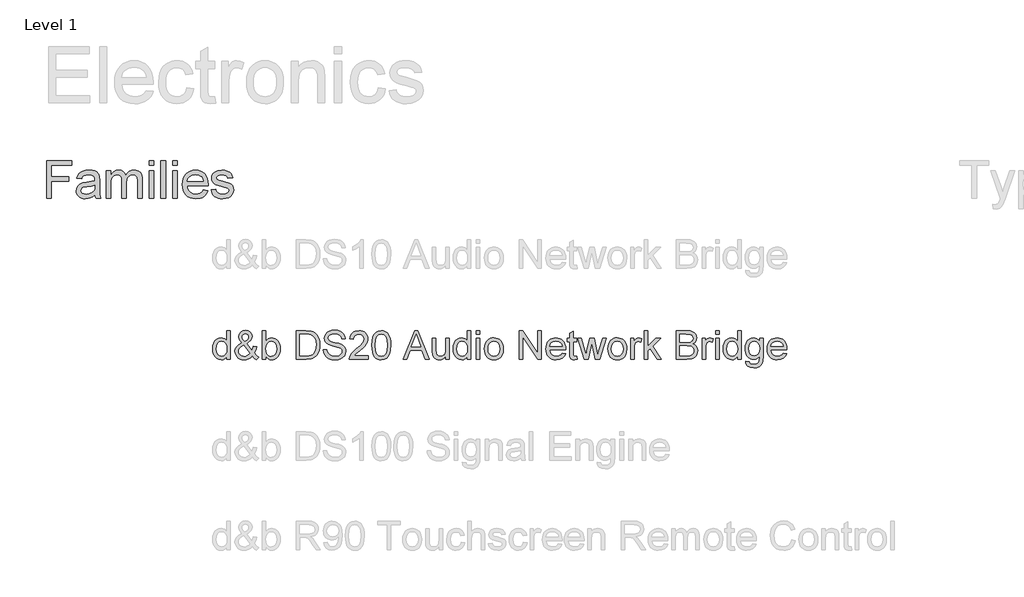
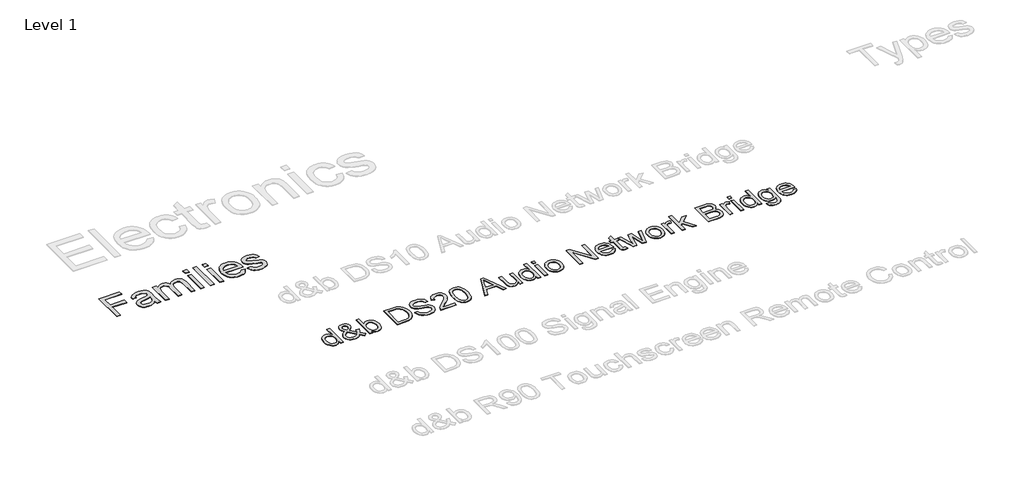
# One storey, part 3 of 14: 2 proxies.
"""IFC4 building model written with IfcOpenShell, lengths in millimetres."""

from ifc_helpers import new_model, si_unit, origin, origin_with_axes, place, context, project, spatial, polyline, outline, extrude, element, save

model = new_model("IFC4")

# Units and contexts
model_context = context("Model", 3, world=origin())
ifc_project = project(units=[si_unit("LENGTHUNIT", "METRE", prefix="MILLI")], contexts=[model_context])

# Site, building, storey
site = spatial("IfcSite", under=ifc_project)
building = spatial("IfcBuilding", under=site)
storey = spatial("IfcBuildingStorey", under=building, Name="Level 1", Elevation=0.0)

# Proxies
placement = place(None, origin())
element("IfcBuildingElementProxy", 1, Name="300mm Arial", ObjectType="300mm Arial", at=placement, inside=storey, context=model_context, shape_type="SweptSolid", body=[
    extrude(outline(polyline([(-19163.9314906, 507.7090418), (-19163.9314906, 543.2464425), (-19175.2024752, 525.6386905), (-19188.8554958, 513.0617248), (-19204.8905522, 505.5155454), (-19223.3076446, 503.0001523), (-19247.6614327, 506.642184), (-19269.9550816, 517.5682793), (-19288.827428, 535.0150829), (-19302.9173084, 558.2192397), (-19311.691294, 586.2426507), (-19314.6159558, 618.1472168), (-19311.9212202, 649.6563096), (-19303.8370134, 678.111982), (-19290.3725323, 701.895553), (-19271.5369742, 719.3883418), (-19248.7558816, 730.1488902), (-19223.4547974, 733.7357396), (-19205.0239095, 731.1697627), (-19188.7267371, 723.471832), (-19174.9127682, 711.672017), (-19163.9314906, 696.8003873), (-19163.9314906, 809.0779723), (-19126.2603743, 809.0779723), (-19126.2603743, 507.7090418), (-19163.9314906, 507.7090418)]), holes=[polyline([(-19276.9448395, 618.2943696), (-19272.6958025, 584.2192998), (-19259.9486913, 559.9850733), (-19241.4258329, 545.4997198), (-19219.8495539, 540.6712686), (-19198.2824719, 545.2789906), (-19180.228663, 559.1021565), (-19168.0057837, 582.3982839), (-19163.9314906, 615.42489), (-19168.0793601, 651.5325078), (-19180.5229686, 676.5668776), (-19199.03663, 691.1901869), (-19221.3946582, 696.0646233), (-19243.1916665, 691.383325), (-19261.0523373, 677.3394298), (-19272.971714, 653.215568), (-19276.9448395, 618.2943696)])]), origin_with_axes(), (0.0, 0.0, 1.0), 5.0),
    extrude(outline(polyline([(-18896.9227385, 544.9386997), (-18916.0709963, 526.5905852), (-18936.8747232, 513.4847891), (-18959.3707072, 505.6213115), (-18983.5957366, 503.0001523), (-19005.5766858, 504.9407298), (-19025.166402, 510.7624624), (-19042.3648853, 520.46535), (-19057.1721356, 534.0493927), (-19073.6716431, 560.849596), (-19079.1714789, 590.6296435), (-19074.7476979, 617.0251767), (-19061.4763549, 640.7351713), (-19039.4126323, 661.7412332), (-19008.6117122, 680.0249683), (-19034.9152749, 718.137543), (-19041.5003626, 746.3908803), (-19036.3132265, 771.8299202), (-19020.7518181, 793.7005049), (-18997.3361291, 808.7652726), (-18968.5861512, 813.7868618), (-18941.2341248, 808.9860018), (-18919.3635402, 794.5834216), (-18905.0161424, 773.448601), (-18900.2336765, 748.4510195), (-18903.7745407, 727.4633516), (-18914.3971333, 708.0575764), (-18932.1014543, 690.2336937), (-18956.8875037, 673.9917036), (-18902.367392, 606.0806873), (-18893.0783716, 625.4864626), (-18886.1070078, 647.7985056), (-18848.4358915, 639.6315253), (-18860.0241744, 604.737918), (-18875.070548, 577.6066209), (-18853.6598159, 552.6274334), (-18829.6003334, 531.9892535), (-18857.8536706, 503.0001523), (-18877.0755049, 520.5849116), (-18896.9227385, 544.9386997)]), holes=[polyline([(-18922.1594434, 572.088391), (-18989.4082721, 656.0390623), (-19015.0956324, 639.6499194), (-19030.7949965, 624.4747871), (-19038.8240211, 609.9802365), (-19041.5003626, 595.6328387), (-19037.8399368, 577.8641383), (-19026.8586592, 559.4332503), (-19009.1635352, 545.361764), (-18985.3615701, 540.6712686), (-18968.3194367, 542.8601664), (-18950.7438744, 549.4268601), (-18934.6766283, 559.4700385), (-18922.1594434, 572.088391)]), polyline([(-18975.9437911, 697.7568805), (-18956.2437102, 710.2556713), (-18944.9681271, 721.1173872), (-18939.6706263, 731.6847975), (-18937.9047928, 743.3006715), (-18940.2316464, 756.4616499), (-18947.2122072, 766.9554838), (-18957.6876471, 773.8256801), (-18970.4991375, 776.1157455), (-18983.5865395, 773.8440742), (-18994.3011026, 767.0290602), (-19001.4472104, 756.9398965), (-19003.8292463, 744.8457759), (-19000.5918847, 731.0502011), (-18990.8062237, 715.7095219), (-18975.9437911, 697.7568805)])]), origin_with_axes(), (0.0, 0.0, 1.0), 5.0),
    extrude(outline(polyline([(-18754.2581008, 507.7090418), (-18791.9292171, 507.7090418), (-18791.9292171, 809.0779723), (-18754.2581008, 809.0779723), (-18754.2581008, 697.3154221), (-18741.8696746, 713.249311), (-18727.8809617, 724.6306603), (-18712.2919622, 731.4594698), (-18695.1026759, 733.7357396), (-18675.6969007, 731.6847975), (-18657.3579832, 725.5319712), (-18641.1343873, 715.6635366), (-18628.0745764, 702.4657701), (-18617.8382599, 686.0674301), (-18610.0851469, 666.5972755), (-18605.2015134, 644.8646467), (-18603.5736355, 621.6788839), (-18605.2589949, 594.9246658), (-18610.3150731, 571.3894152), (-18618.7418701, 551.073132), (-18630.5393858, 533.9758163), (-18644.7005433, 520.4239633), (-18660.2182658, 510.7440683), (-18677.092553, 504.9361313), (-18695.3234051, 503.0001523), (-18713.0783099, 505.4971513), (-18728.8190608, 512.9881484), (-18742.5456577, 525.4731437), (-18754.2581008, 542.9521369), (-18754.2581008, 507.7090418)]), holes=[polyline([(-18754.2581008, 619.9130503), (-18751.6829268, 588.4959279), (-18743.9574049, 567.2323486), (-18734.8293329, 555.6118761), (-18724.2205359, 547.3115386), (-18712.1310138, 542.3313361), (-18698.5607667, 540.6712686), (-18676.8189408, 545.5640991), (-18658.2409, 560.2425907), (-18645.4937889, 584.6147729), (-18641.2447519, 618.5886752), (-18645.3190449, 653.0592181), (-18657.5419242, 677.1554888), (-18675.5405509, 691.3373397), (-18696.9420859, 696.0646233), (-18718.6839118, 691.1717928), (-18737.2619526, 676.4933012), (-18750.0090637, 652.5625774), (-18754.2581008, 619.9130503)])]), origin_with_axes(), (0.0, 0.0, 1.0), 5.0),
    extrude(outline(polyline([(-18438.7625017, 507.7090418), (-18438.7625017, 809.0779723), (-18334.7990499, 809.0779723), (-18281.0147022, 804.7369647), (-18256.9920079, 796.3676493), (-18236.72171, 783.1790798), (-18215.8811949, 760.2232433), (-18201.0371564, 731.6756005), (-18192.1528062, 698.0879743), (-18189.1913562, 660.0121878), (-18191.1963131, 627.6661634), (-18197.2111837, 599.201294), (-18206.3714454, 574.9670676), (-18217.8125754, 555.312972), (-18230.9827508, 539.7975488), (-18245.3301486, 527.9793397), (-18261.802065, 519.2145512), (-18281.345796, 512.8593897), (-18329.7958547, 507.7090418), (-18438.7625017, 507.7090418)]), holes=[polyline([(-18401.0913854, 545.3801581), (-18334.4311679, 545.3801581), (-18306.8584123, 546.7413215), (-18285.9443209, 550.8248116), (-18270.1621833, 557.3915053), (-18257.9852893, 566.202279), (-18244.8978873, 582.5086485), (-18235.066241, 603.615878), (-18228.9134146, 629.615938), (-18226.8624725, 660.600799), (-18230.8815833, 701.6564297), (-18242.9389157, 731.9699061), (-18260.7536013, 752.792027), (-18282.0447718, 765.3735912), (-18303.7130213, 769.8985398), (-18335.4612375, 771.406856), (-18401.0913854, 771.406856), (-18401.0913854, 545.3801581)])]), origin_with_axes(), (0.0, 0.0, 1.0), 5.0),
    extrude(outline(polyline([(-18151.5202399, 611.3046117), (-18113.8491236, 611.3046117), (-18109.5265101, 590.3997173), (-18101.7090177, 573.5967071), (-18089.5137296, 560.2609848), (-18072.0577289, 549.7579539), (-18050.7205732, 542.9429399), (-18026.8818199, 540.6712686), (-18005.8941521, 542.3911169), (-17987.5184464, 547.5506619), (-17972.6284227, 555.7176422), (-17962.0978006, 566.4597964), (-17955.8346096, 578.7930403), (-17953.7468793, 591.7332895), (-17955.3103777, 604.3424449), (-17960.0008732, 615.240949), (-17969.5290169, 624.5391664), (-17985.60546, 632.3474618), (-18040.4566655, 646.7316478), (-18076.4631158, 656.2505944), (-18099.5017258, 665.3096885), (-18118.2545105, 677.9832233), (-18131.5442475, 693.3422966), (-18139.4629075, 711.0558146), (-18142.1024608, 730.7926837), (-18138.8375081, 752.8564063), (-18129.04265, 773.4302069), (-18112.9754038, 790.8678135), (-18090.8932871, 803.5229541), (-18064.3873893, 811.2208849), (-18035.0488002, 813.7868618), (-18003.2637958, 811.1013232), (-17975.451917, 803.0447075), (-17952.6064451, 789.7825616), (-17935.7206615, 771.4804324), (-17925.0336895, 749.2787539), (-17920.7846525, 724.3179606), (-17958.4557688, 724.3179606), (-17965.3719503, 746.7955505), (-17979.7929245, 763.0191465), (-18002.3256967, 772.8415957), (-18033.5772722, 776.1157455), (-18065.5646117, 772.8783839), (-18087.5087727, 763.1662993), (-18100.2007015, 748.8740837), (-18104.4313445, 731.8963297), (-18101.4331062, 717.4201732), (-18092.4383914, 705.776708), (-18071.1748121, 695.3656475), (-18030.9285219, 684.7338579), (-17989.3946446, 674.6354971), (-17964.2683043, 665.8247233), (-17942.7931929, 652.1579072), (-17927.8111986, 635.2905177), (-17919.0096219, 615.4064959), (-17916.075763, 592.6897827), (-17919.4510803, 569.4672317), (-17929.5770322, 547.6242383), (-17946.0397515, 528.8254683), (-17968.4253709, 514.7355879), (-17995.3451359, 505.9340112), (-18025.4102919, 503.0001523), (-18062.3180531, 506.1639374), (-18092.6959088, 515.6552929), (-18116.8933471, 531.5110069), (-18135.2598557, 553.7678676), (-18147.0504736, 580.8807706), (-18151.5202399, 611.3046117)])), origin_with_axes(), (0.0, 0.0, 1.0), 5.0),
    extrude(outline(polyline([(-17680.631286, 545.3801581), (-17680.631286, 507.7090418), (-17878.4046467, 507.7090418), (-17874.3579447, 533.6815107), (-17865.0597273, 553.9793998), (-17851.4388964, 573.6702835), (-17831.7480126, 594.2808723), (-17804.2396364, 617.3378764), (-17763.597873, 653.4454942), (-17739.2348879, 680.0985447), (-17727.0671909, 701.7300061), (-17723.0112919, 722.7728562), (-17726.8464617, 741.6360055), (-17738.3519711, 757.3169755), (-17756.037898, 767.8843858), (-17778.4143204, 771.406856), (-17801.9127828, 767.9671593), (-17820.1689268, 757.6480693), (-17831.9503477, 741.2589264), (-17836.0246408, 719.609071), (-17873.6957571, 724.3179606), (-17864.5630866, 760.7566722), (-17856.016728, 775.2926095), (-17844.8170205, 787.3729345), (-17831.2214815, 796.8688885), (-17815.4876284, 803.6517128), (-17777.60498, 809.0779723), (-17757.4151562, 807.5696561), (-17739.44642, 803.0447075), (-17723.6987714, 795.5031266), (-17710.1722103, 784.9449134), (-17699.3081951, 772.151817), (-17691.5481843, 757.9055867), (-17686.8921778, 742.2062226), (-17685.3401756, 725.0537246), (-17687.0140387, 707.0367038), (-17692.0356279, 689.3323828), (-17700.9475692, 671.3245592), (-17714.2924886, 652.3970305), (-17735.565265, 629.799879), (-17768.2607773, 600.7831866), (-17811.5972763, 564.5468101), (-17828.5934245, 545.3801581), (-17680.631286, 545.3801581)])), origin_with_axes(), (0.0, 0.0, 1.0), 5.0),
    extrude(outline(polyline([(-17642.9601697, 655.9654859), (-17640.1918577, 704.2040125), (-17631.8869217, 742.6752721), (-17618.1281351, 771.967876), (-17598.9982713, 792.6704353), (-17574.3593747, 804.976088), (-17544.0734894, 809.0779723), (-17520.8601355, 806.6499511), (-17500.0748028, 799.3658876), (-17482.6923785, 787.5108903), (-17469.68775, 771.3700678), (-17459.8653007, 751.0813757), (-17452.0294142, 726.7827699), (-17446.8974604, 695.9266676), (-17445.1868091, 655.9654859), (-17447.92753, 608.0028707), (-17456.1496926, 569.6235816), (-17469.8257058, 540.3033866), (-17488.9279784, 519.5180539), (-17513.6220573, 507.1296277), (-17544.0734894, 503.0001523), (-17564.822034, 504.793577), (-17583.2161337, 510.1738512), (-17599.2557887, 519.1409748), (-17612.9409989, 531.6949479), (-17626.0743862, 554.3886685), (-17635.455377, 582.6649983), (-17641.0839716, 616.5239375), (-17642.9601697, 655.9654859)]), holes=[polyline([(-17605.2890534, 656.0390623), (-17600.8744695, 596.7824699), (-17595.3562396, 576.5144712), (-17587.6307177, 562.4866709), (-17567.9122427, 546.1251192), (-17544.0734894, 540.6712686), (-17520.2347361, 546.1435133), (-17500.5162612, 562.5602473), (-17492.7907393, 576.6110402), (-17487.2725094, 596.8744404), (-17482.8579254, 656.0390623), (-17487.1253566, 713.9620824), (-17492.4596455, 734.1634025), (-17499.92765, 748.5245959), (-17519.6093368, 765.6862909), (-17544.5149478, 771.406856), (-17568.0961837, 766.3668726), (-17587.0421065, 751.2469226), (-17595.0251458, 735.6119378), (-17600.7273167, 714.5322995), (-17605.2890534, 656.0390623)])]), origin_with_axes(), (0.0, 0.0, 1.0), 5.0),
    extrude(outline(polyline([(-17315.3980412, 507.7090418), (-17195.1006288, 809.0779723), (-17163.0213188, 809.0779723), (-17042.7974828, 507.7090418), (-17082.6023147, 507.7090418), (-17117.0360694, 601.8868326), (-17241.233031, 601.8868326), (-17275.6667858, 507.7090418), (-17315.3980412, 507.7090418)]), holes=[polyline([(-17227.400668, 639.5579489), (-17130.7948561, 639.5579489), (-17158.0181237, 713.6493827), (-17179.1345502, 771.406856), (-17197.896532, 720.1241058), (-17227.400668, 639.5579489)])]), origin_with_axes(), (0.0, 0.0, 1.0), 5.0),
    extrude(outline(polyline([(-16865.9933959, 507.7090418), (-16865.9933959, 545.7480401), (-16879.6234238, 527.0458392), (-16895.4975319, 513.6871242), (-16913.6157202, 505.6718953), (-16933.9779886, 503.0001523), (-16952.3261031, 504.8763504), (-16969.4050248, 510.504945), (-16983.7340285, 518.9662309), (-16993.8323892, 529.3405031), (-17005.0527901, 557.0788056), (-17007.2600821, 592.1011715), (-17007.2600821, 729.0268501), (-16969.5889658, 729.0268501), (-16969.5889658, 609.8330837), (-16967.3080974, 571.4262034), (-16961.8174586, 558.6147129), (-16952.4088766, 548.8750371), (-16939.7077507, 542.7222107), (-16924.3394804, 540.6712686), (-16908.0882932, 542.7681959), (-16892.8855698, 549.0589781), (-16880.3499908, 558.9642008), (-16872.100237, 571.90445), (-16867.5201062, 589.6271651), (-16865.9933959, 613.8797856), (-16865.9933959, 729.0268501), (-16828.3222796, 729.0268501), (-16828.3222796, 507.7090418), (-16865.9933959, 507.7090418)])), origin_with_axes(), (0.0, 0.0, 1.0), 5.0),
    extrude(outline(polyline([(-16639.9666981, 507.7090418), (-16639.9666981, 543.2464425), (-16651.2376827, 525.6386905), (-16664.8907033, 513.0617248), (-16680.9257597, 505.5155454), (-16699.3428521, 503.0001523), (-16723.6966402, 506.642184), (-16745.9902891, 517.5682793), (-16764.8626355, 535.0150829), (-16778.9525159, 558.2192397), (-16787.7265015, 586.2426507), (-16790.6511633, 618.1472168), (-16787.9564277, 649.6563096), (-16779.8722209, 678.111982), (-16766.4077398, 701.895553), (-16747.5721817, 719.3883418), (-16724.7910891, 730.1488902), (-16699.4900049, 733.7357396), (-16681.059117, 731.1697627), (-16664.7619446, 723.471832), (-16650.9479756, 711.672017), (-16639.9666981, 696.8003873), (-16639.9666981, 809.0779723), (-16602.2955818, 809.0779723), (-16602.2955818, 507.7090418), (-16639.9666981, 507.7090418)]), holes=[polyline([(-16752.980047, 618.2943696), (-16748.73101, 584.2192998), (-16735.9838988, 559.9850733), (-16717.4610404, 545.4997198), (-16695.8847614, 540.6712686), (-16674.3176794, 545.2789906), (-16656.2638705, 559.1021565), (-16644.0409912, 582.3982839), (-16639.9666981, 615.42489), (-16644.1145676, 651.5325078), (-16656.5581761, 676.5668776), (-16675.0718375, 691.1901869), (-16697.4298657, 696.0646233), (-16719.2268739, 691.383325), (-16737.0875448, 677.3394298), (-16749.0069215, 653.215568), (-16752.980047, 618.2943696)])]), origin_with_axes(), (0.0, 0.0, 1.0), 5.0),
    extrude(outline(polyline([(-16545.7889073, 771.406856), (-16545.7889073, 809.0779723), (-16508.117791, 809.0779723), (-16508.117791, 771.406856), (-16545.7889073, 771.406856)])), origin_with_axes(), (0.0, 0.0, 1.0), 5.0),
    extrude(outline(polyline([(-16545.7889073, 507.7090418), (-16545.7889073, 729.0268501), (-16508.117791, 729.0268501), (-16508.117791, 507.7090418), (-16545.7889073, 507.7090418)])), origin_with_axes(), (0.0, 0.0, 1.0), 5.0),
    extrude(outline(polyline([(-16461.0288956, 618.367946), (-16458.9917491, 647.0305519), (-16452.8803094, 671.7292294), (-16442.6945767, 692.4639783), (-16428.4345509, 709.2347988), (-16414.077956, 719.9539604), (-16398.2314391, 727.6105044), (-16380.895, 732.2044308), (-16362.0686389, 733.7357396), (-16341.2856055, 731.8710378), (-16322.4937333, 726.2769322), (-16305.6930224, 716.9534229), (-16290.8834729, 703.9005098), (-16278.7962501, 687.5596515), (-16270.1625195, 668.3723062), (-16264.9822811, 646.3384739), (-16263.255535, 621.4581547), (-16266.3089556, 583.4007623), (-16275.4692173, 554.4300552), (-16290.4696056, 532.7342145), (-16311.0434062, 516.5014215), (-16335.4799677, 506.3754696), (-16362.0686389, 503.0001523), (-16383.155175, 504.8579563), (-16402.1217912, 510.4313686), (-16418.9684873, 519.720389), (-16433.6952634, 532.7250175), (-16445.6537275, 549.224525), (-16454.1954876, 568.9981822), (-16459.3205436, 592.0459892), (-16461.0288956, 618.367946)]), holes=[polyline([(-16423.3577793, 618.4415224), (-16418.9983777, 584.3480585), (-16405.9201728, 560.0586497), (-16386.238486, 545.5181139), (-16362.0686389, 540.6712686), (-16338.0091564, 545.545705), (-16318.3642579, 560.1690143), (-16305.286053, 584.7803198), (-16300.9266513, 619.6187447), (-16305.3136441, 652.7189273), (-16318.4746225, 676.6772422), (-16338.1471122, 691.2177781), (-16362.0686389, 696.0646233), (-16386.238486, 691.2361722), (-16405.9201728, 676.7508186), (-16418.9983777, 652.5165922), (-16423.3577793, 618.4415224)])]), origin_with_axes(), (0.0, 0.0, 1.0), 5.0),
    extrude(outline(polyline([(-16098.4444012, 507.7090418), (-16098.4444012, 809.0779723), (-16058.1245345, 809.0779723), (-15900.6710406, 570.3225574), (-15900.6710406, 809.0779723), (-15862.9999243, 809.0779723), (-15862.9999243, 507.7090418), (-15903.3197909, 507.7090418), (-16060.7732849, 746.5380331), (-16060.7732849, 507.7090418), (-16098.4444012, 507.7090418)])), origin_with_axes(), (0.0, 0.0, 1.0), 5.0),
    extrude(outline(polyline([(-15646.8324639, 573.6334953), (-15609.8971116, 568.9246058), (-15623.2052428, 541.0943329), (-15644.4412309, 520.290606), (-15673.1268295, 507.3227657), (-15708.7837919, 503.0001523), (-15732.1580942, 504.8648541), (-15752.9848136, 510.4589597), (-15771.2639503, 519.782469), (-15786.9955041, 532.8353821), (-15799.6460462, 549.2544154), (-15808.6821477, 568.6762855), (-15814.1038086, 591.1009923), (-15815.9110289, 616.528536), (-15814.0854145, 642.8183031), (-15808.6085713, 665.9902702), (-15799.4804993, 686.0444375), (-15786.7011985, 702.9808048), (-15771.0110314, 716.4360888), (-15753.1503605, 726.0470059), (-15733.1191859, 731.8135562), (-15710.9175075, 733.7357396), (-15689.4308997, 731.8181547), (-15669.9998326, 726.0654), (-15652.6243061, 716.4774755), (-15637.3043202, 703.0543812), (-15624.7986317, 686.1548021), (-15615.865997, 666.137423), (-15610.5064161, 643.0022441), (-15608.7198892, 616.7492652), (-15608.9406184, 606.5957221), (-15778.2399126, 606.5957221), (-15771.7192042, 578.3975672), (-15756.5716631, 557.6674168), (-15734.7102755, 544.9203056), (-15708.0480279, 540.6712686), (-15687.9984592, 542.6394373), (-15671.1126756, 548.5439433), (-15657.3906772, 558.7526686), (-15646.8324639, 573.6334953)]), holes=[polyline([(-15778.2399126, 644.2668384), (-15646.3910055, 644.2668384), (-15651.4861711, 664.1692544), (-15661.4741673, 678.4062876), (-15683.4367224, 691.6500394), (-15711.0646603, 696.0646233), (-15736.457715, 692.5421532), (-15757.4545799, 681.9747429), (-15772.050298, 665.5028266), (-15778.2399126, 644.2668384)])]), origin_with_axes(), (0.0, 0.0, 1.0), 5.0),
    extrude(outline(polyline([(-15490.9976508, 539.1261642), (-15486.2887612, 506.6053958), (-15514.468522, 503.0001523), (-15532.5499221, 504.5636507), (-15546.0327972, 509.2541462), (-15555.5609409, 516.4830274), (-15561.7781466, 525.6616832), (-15565.1994492, 541.4254267), (-15566.3398834, 568.409571), (-15566.3398834, 691.3557338), (-15594.5932206, 691.3557338), (-15594.5932206, 729.0268501), (-15566.3398834, 729.0268501), (-15566.3398834, 782.8111978), (-15528.6687671, 804.9576939), (-15528.6687671, 729.0268501), (-15490.9976508, 729.0268501), (-15490.9976508, 691.3557338), (-15528.6687671, 691.3557338), (-15528.6687671, 569.513217), (-15526.6822043, 550.0890477), (-15520.2442694, 543.2096543), (-15507.4051877, 540.6712686), (-15490.9976508, 539.1261642)])), origin_with_axes(), (0.0, 0.0, 1.0), 5.0),
    extrude(outline(polyline([(-15416.3176057, 507.7090418), (-15483.9343164, 729.0268501), (-15444.8652486, 729.0268501), (-15406.6055211, 599.9002698), (-15395.2011792, 553.7678676), (-15385.8569765, 598.2080126), (-15355.4699237, 729.0268501), (-15310.7354731, 729.0268501), (-15280.3484203, 598.5758946), (-15272.0342872, 558.3296043), (-15260.1149106, 600.7831866), (-15221.8551831, 729.0268501), (-15182.565386, 729.0268501), (-15250.4028259, 507.7090418), (-15295.8730405, 507.7090418), (-15324.8621417, 637.4978097), (-15333.2498512, 677.9648292), (-15370.5530855, 507.7090418), (-15416.3176057, 507.7090418)])), origin_with_axes(), (0.0, 0.0, 1.0), 5.0),
    extrude(outline(polyline([(-15166.0842726, 618.367946), (-15164.0471261, 647.0305519), (-15157.9356864, 671.7292294), (-15147.7499537, 692.4639783), (-15133.4899278, 709.2347988), (-15119.133333, 719.9539604), (-15103.286816, 727.6105044), (-15085.950377, 732.2044308), (-15067.1240159, 733.7357396), (-15046.3409824, 731.8710378), (-15027.5491103, 726.2769322), (-15010.7483994, 716.9534229), (-14995.9388498, 703.9005098), (-14983.851627, 687.5596515), (-14975.2178965, 668.3723062), (-14970.0376581, 646.3384739), (-14968.310912, 621.4581547), (-14971.3643326, 583.4007623), (-14980.5245942, 554.4300552), (-14995.5249826, 532.7342145), (-15016.0987832, 516.5014215), (-15040.5353447, 506.3754696), (-15067.1240159, 503.0001523), (-15088.210552, 504.8579563), (-15107.1771681, 510.4313686), (-15124.0238643, 519.720389), (-15138.7506404, 532.7250175), (-15150.7091045, 549.224525), (-15159.2508646, 568.9981822), (-15164.3759206, 592.0459892), (-15166.0842726, 618.367946)]), holes=[polyline([(-15128.4131563, 618.4415224), (-15124.0537547, 584.3480585), (-15110.9755497, 560.0586497), (-15091.293863, 545.5181139), (-15067.1240159, 540.6712686), (-15043.0645334, 545.545705), (-15023.4196349, 560.1690143), (-15010.34143, 584.7803198), (-15005.9820283, 619.6187447), (-15010.3690211, 652.7189273), (-15023.5299995, 676.6772422), (-15043.2024892, 691.2177781), (-15067.1240159, 696.0646233), (-15091.293863, 691.2361722), (-15110.9755497, 676.7508186), (-15124.0537547, 652.5165922), (-15128.4131563, 618.4415224)])]), origin_with_axes(), (0.0, 0.0, 1.0), 5.0),
    extrude(outline(polyline([(-14925.9309062, 507.7090418), (-14925.9309062, 729.0268501), (-14892.9686794, 729.0268501), (-14892.9686794, 696.2853525), (-14880.7917854, 715.2680635), (-14869.5713845, 726.4516761), (-14858.3141954, 731.9147238), (-14846.0269368, 733.7357396), (-14827.2649551, 730.8294719), (-14808.2086677, 722.1106686), (-14820.7902319, 688.3391014), (-14834.0339838, 694.1332429), (-14847.2777356, 696.0646233), (-14858.5257276, 694.2068193), (-14868.5781031, 688.633407), (-14876.6990982, 679.767451), (-14882.1529487, 668.0320153), (-14886.7330796, 646.9891652), (-14888.2597899, 624.0333287), (-14888.2597899, 507.7090418), (-14925.9309062, 507.7090418)])), origin_with_axes(), (0.0, 0.0, 1.0), 5.0),
    extrude(outline(polyline([(-14784.66422, 507.7090418), (-14784.66422, 809.0779723), (-14746.9931037, 809.0779723), (-14746.9931037, 647.136318), (-14662.5273976, 729.0268501), (-14610.4353071, 729.0268501), (-14696.0046592, 646.1062484), (-14605.7264176, 507.7090418), (-14649.7251042, 507.7090418), (-14723.0071976, 619.9130503), (-14746.9931037, 596.5893318), (-14746.9931037, 507.7090418), (-14784.66422, 507.7090418)])), origin_with_axes(), (0.0, 0.0, 1.0), 5.0),
    extrude(outline(polyline([(-14450.3330628, 507.7090418), (-14450.3330628, 809.0779723), (-14335.3331511, 809.0779723), (-14303.7044966, 806.8614832), (-14279.0104176, 800.2120162), (-14260.082889, 788.9640242), (-14245.7538853, 772.9519603), (-14236.7315793, 754.1164022), (-14233.724144, 734.3979272), (-14236.2533328, 716.2521478), (-14243.8408989, 699.1916203), (-14256.5420248, 684.2648083), (-14274.4118927, 672.5201756), (-14253.0655399, 661.3733512), (-14237.2925994, 644.4139912), (-14227.5529236, 622.7641358), (-14224.306365, 597.545825), (-14226.522854, 576.5305661), (-14233.172321, 557.0420174), (-14243.0959379, 540.4689335), (-14255.1348762, 528.2000689), (-14269.8777471, 519.3157188), (-14287.9131619, 512.8961779), (-14336.2160679, 507.7090418), (-14450.3330628, 507.7090418)]), holes=[polyline([(-14412.6619465, 686.6468443), (-14343.8680134, 686.6468443), (-14303.6952995, 689.8842058), (-14289.6330103, 695.4668151), (-14279.5254524, 703.8269334), (-14273.4278084, 714.8358021), (-14271.3952603, 728.3646625), (-14273.2898526, 741.4980497), (-14278.9736294, 752.9391798), (-14288.1890734, 761.8695152), (-14300.6786672, 767.4705186), (-14349.0919377, 771.406856), (-14412.6619465, 771.406856), (-14412.6619465, 686.6468443)]), polyline([(-14412.6619465, 545.3801581), (-14335.4067275, 545.3801581), (-14307.4476959, 546.8516861), (-14283.7928836, 555.0554546), (-14268.1211106, 571.7940854), (-14263.5133886, 583.6214915), (-14261.9774813, 597.177943), (-14263.780103, 612.9232924), (-14269.1879684, 626.4613499), (-14278.6333386, 637.0471543), (-14292.5484751, 643.9357446), (-14312.257753, 647.7157321), (-14339.0855475, 648.975728), (-14412.6619465, 648.975728), (-14412.6619465, 545.3801581)])]), origin_with_axes(), (0.0, 0.0, 1.0), 5.0),
    extrude(outline(polyline([(-14177.2174696, 507.7090418), (-14177.2174696, 729.0268501), (-14144.2552428, 729.0268501), (-14144.2552428, 696.2853525), (-14132.0783488, 715.2680635), (-14120.8579479, 726.4516761), (-14109.6007589, 731.9147238), (-14097.3135002, 733.7357396), (-14078.5515185, 730.8294719), (-14059.4952311, 722.1106686), (-14072.0767954, 688.3391014), (-14085.3205472, 694.1332429), (-14098.564299, 696.0646233), (-14109.812291, 694.2068193), (-14119.8646665, 688.633407), (-14127.9856616, 679.767451), (-14133.4395122, 668.0320153), (-14138.019643, 646.9891652), (-14139.5463533, 624.0333287), (-14139.5463533, 507.7090418), (-14177.2174696, 507.7090418)])), origin_with_axes(), (0.0, 0.0, 1.0), 5.0),
    extrude(outline(polyline([(-14035.9507834, 771.406856), (-14035.9507834, 809.0779723), (-13998.2796671, 809.0779723), (-13998.2796671, 771.406856), (-14035.9507834, 771.406856)])), origin_with_axes(), (0.0, 0.0, 1.0), 5.0),
    extrude(outline(polyline([(-14035.9507834, 507.7090418), (-14035.9507834, 729.0268501), (-13998.2796671, 729.0268501), (-13998.2796671, 507.7090418), (-14035.9507834, 507.7090418)])), origin_with_axes(), (0.0, 0.0, 1.0), 5.0),
    extrude(outline(polyline([(-13805.2151961, 507.7090418), (-13805.2151961, 543.2464425), (-13816.4861807, 525.6386905), (-13830.1392012, 513.0617248), (-13846.1742577, 505.5155454), (-13864.5913501, 503.0001523), (-13888.9451382, 506.642184), (-13911.2387871, 517.5682793), (-13930.1111334, 535.0150829), (-13944.2010138, 558.2192397), (-13952.9749994, 586.2426507), (-13955.8996613, 618.1472168), (-13953.2049257, 649.6563096), (-13945.1207188, 678.111982), (-13931.6562378, 701.895553), (-13912.8206796, 719.3883418), (-13890.0395871, 730.1488902), (-13864.7385029, 733.7357396), (-13846.3076149, 731.1697627), (-13830.0104425, 723.471832), (-13816.1964736, 711.672017), (-13805.2151961, 696.8003873), (-13805.2151961, 809.0779723), (-13767.5440797, 809.0779723), (-13767.5440797, 507.7090418), (-13805.2151961, 507.7090418)]), holes=[polyline([(-13918.228545, 618.2943696), (-13913.9795079, 584.2192998), (-13901.2323968, 559.9850733), (-13882.7095383, 545.4997198), (-13861.1332593, 540.6712686), (-13839.5661774, 545.2789906), (-13821.5123684, 559.1021565), (-13809.2894892, 582.3982839), (-13805.2151961, 615.42489), (-13809.3630656, 651.5325078), (-13821.806674, 676.5668776), (-13840.3203354, 691.1901869), (-13862.6783637, 696.0646233), (-13884.4753719, 691.383325), (-13902.3360428, 677.3394298), (-13914.2554194, 653.215568), (-13918.228545, 618.2943696)])]), origin_with_axes(), (0.0, 0.0, 1.0), 5.0),
    extrude(outline(polyline([(-13720.4551844, 488.8734837), (-13682.7840681, 484.1645941), (-13678.6270015, 472.3923703), (-13670.5703858, 464.2989664), (-13654.7330659, 458.0081843), (-13634.0029155, 455.9112569), (-13611.8932076, 458.2840958), (-13595.4488824, 465.4026124), (-13584.0445406, 476.8069542), (-13577.0547826, 492.0372688), (-13574.4796087, 535.962379), (-13587.0151877, 523.601544), (-13601.0039005, 514.7723761), (-13616.4457473, 509.4748754), (-13633.3407279, 507.7090418), (-13653.9950027, 509.7645825), (-13672.1798695, 515.9312044), (-13687.8953285, 526.2089076), (-13701.1413796, 540.5976922), (-13711.6513084, 557.8605548), (-13719.1584003, 576.7604923), (-13723.6626555, 597.2975047), (-13725.1640739, 619.4715919), (-13722.4693383, 649.8862359), (-13714.3851314, 677.8544646), (-13701.1965619, 701.5552621), (-13683.1887383, 719.1676126), (-13660.9778628, 730.0937079), (-13635.1801379, 733.7357396), (-13617.5631888, 731.6756005), (-13601.5741176, 725.495183), (-13587.2129242, 715.1944871), (-13574.4796087, 700.7735129), (-13574.4796087, 729.0268501), (-13536.8084924, 729.0268501), (-13536.8084924, 537.9489418), (-13539.3836663, 493.8306935), (-13547.1091882, 464.777213), (-13560.4173194, 445.5093935), (-13579.7403212, 430.7481284), (-13604.6551293, 421.3671375), (-13634.7386795, 418.2401406), (-13669.7886366, 422.6455275), (-13697.3889833, 435.8616882), (-13707.7839489, 445.7830057), (-13715.0933043, 457.9254108), (-13719.3170494, 472.2889035), (-13720.4551844, 488.8734837)]), holes=[polyline([(-13687.4929576, 622.0467659), (-13683.4738468, 587.4934495), (-13671.4165144, 563.7374697), (-13653.2891291, 549.969486), (-13631.0598595, 545.3801581), (-13608.9961369, 549.9418949), (-13590.7767811, 563.6271051), (-13578.5539018, 587.0795823), (-13574.4796087, 620.9431199), (-13578.6734634, 653.601844), (-13591.2550277, 677.1187006), (-13609.7410979, 691.3281427), (-13631.6484707, 696.0646233), (-13653.1603704, 691.401719), (-13671.1957852, 677.4130062), (-13683.4186645, 654.2456375), (-13687.4929576, 622.0467659)])]), origin_with_axes(), (0.0, 0.0, 1.0), 5.0),
    extrude(outline(polyline([(-13325.3499215, 573.6334953), (-13288.4145692, 568.9246058), (-13301.7227004, 541.0943329), (-13322.9586886, 520.290606), (-13351.6442872, 507.3227657), (-13387.3012495, 503.0001523), (-13410.6755518, 504.8648541), (-13431.5022713, 510.4589597), (-13449.7814079, 519.782469), (-13465.5129617, 532.8353821), (-13478.1635038, 549.2544154), (-13487.1996053, 568.6762855), (-13492.6212662, 591.1009923), (-13494.4284865, 616.528536), (-13492.6028721, 642.8183031), (-13487.1260289, 665.9902702), (-13477.9979569, 686.0444375), (-13465.2186561, 702.9808048), (-13449.528489, 716.4360888), (-13431.6678182, 726.0470059), (-13411.6366435, 731.8135562), (-13389.4349651, 733.7357396), (-13367.9483573, 731.8181547), (-13348.5172902, 726.0654), (-13331.1417637, 716.4774755), (-13315.8217779, 703.0543812), (-13303.3160893, 686.1548021), (-13294.3834546, 666.137423), (-13289.0238738, 643.0022441), (-13287.2373468, 616.7492652), (-13287.458076, 606.5957221), (-13456.7573702, 606.5957221), (-13450.2366619, 578.3975672), (-13435.0891207, 557.6674168), (-13413.2277331, 544.9203056), (-13386.5654855, 540.6712686), (-13366.5159168, 542.6394373), (-13349.6301332, 548.5439433), (-13335.9081348, 558.7526686), (-13325.3499215, 573.6334953)]), holes=[polyline([(-13456.7573702, 644.2668384), (-13324.9084632, 644.2668384), (-13330.0036288, 664.1692544), (-13339.991625, 678.4062876), (-13361.9541801, 691.6500394), (-13389.5821179, 696.0646233), (-13414.9751726, 692.5421532), (-13435.9720375, 681.9747429), (-13450.5677557, 665.5028266), (-13456.7573702, 644.2668384)])]), origin_with_axes(), (0.0, 0.0, 1.0), 5.0),
])
element("IfcBuildingElementProxy", 2, Name="400mm Arial", ObjectType="400mm Arial", at=placement, inside=storey, context=model_context, shape_type="SweptSolid", body=[
    extrude(outline(polyline([(-21056.720891, 2200.0884774), (-21056.720891, 2591.8460532), (-20793.5087698, 2591.8460532), (-20793.5087698, 2542.8763562), (-21007.7511941, 2542.8763562), (-21007.7511941, 2426.5733259), (-20824.1148304, 2426.5733259), (-20824.1148304, 2377.6036289), (-21007.7511941, 2377.6036289), (-21007.7511941, 2200.0884774), (-21056.720891, 2200.0884774)])), origin_with_axes(), (0.0, 0.0, 1.0), 5.0),
    extrude(outline(polyline([(-20548.660285, 2236.8157502), (-20572.0571836, 2216.7544339), (-20596.1475009, 2203.6273032), (-20621.4811893, 2196.3822748), (-20648.6082016, 2193.9672653), (-20670.4120309, 2195.4198576), (-20689.5318522, 2199.7776346), (-20705.9676654, 2207.0405963), (-20719.7194706, 2217.2087426), (-20730.5780466, 2229.636477), (-20738.3341723, 2243.6782028), (-20742.9878477, 2259.3339201), (-20744.5390729, 2276.6036289), (-20742.1957963, 2296.9040551), (-20735.1659668, 2315.3394244), (-20724.3223352, 2331.1206744), (-20710.5376524, 2343.4587426), (-20676.2493001, 2359.5269244), (-20633.879035, 2366.8915077), (-20583.8094327, 2374.6386668), (-20548.9472168, 2383.7248411), (-20548.660285, 2394.6282502), (-20552.0317338, 2416.4828903), (-20562.1460804, 2430.7816592), (-20584.7658721, 2441.3981365), (-20616.2805501, 2444.9369623), (-20645.4519516, 2442.5817303), (-20665.8241107, 2435.5160342), (-20679.7163929, 2422.448681), (-20689.4481638, 2402.0884774), (-20738.4178607, 2408.2096896), (-20729.9175056, 2434.9899926), (-20717.2327282, 2456.0316592), (-20699.1799346, 2472.1237521), (-20674.5755312, 2484.0553335), (-20644.4835568, 2491.4438278), (-20609.9680501, 2493.9066592), (-20576.8632916, 2491.7307596), (-20550.6209857, 2485.2030608), (-20530.8346458, 2475.3876015), (-20517.097785, 2463.3484206), (-20507.9876997, 2448.4638325), (-20502.0816865, 2430.1121517), (-20499.690588, 2387.2636668), (-20499.690588, 2326.3384774), (-20497.2038456, 2241.2631933), (-20487.4481638, 2200.0884774), (-20536.4178607, 2200.0884774), (-20544.2606638, 2217.1130986), (-20548.660285, 2236.8157502)]), holes=[polyline([(-20548.660285, 2334.7551441), (-20581.5618001, 2326.6014983), (-20627.6621789, 2319.7390456), (-20669.7933342, 2311.8005986), (-20680.7565208, 2306.3728051), (-20688.8743001, 2298.8886668), (-20693.8956069, 2289.9220475), (-20695.5693759, 2280.0468108), (-20691.9229507, 2265.485021), (-20680.9836751, 2253.5534396), (-20662.990659, 2245.5910816), (-20638.1830122, 2242.9369623), (-20611.8809289, 2245.8660579), (-20588.6394516, 2254.6533449), (-20569.7975956, 2267.6011432), (-20556.6943759, 2283.0117729), (-20550.8840066, 2298.8886668), (-20548.9472168, 2320.8867729), (-20548.660285, 2334.7551441)])]), origin_with_axes(), (0.0, 0.0, 1.0), 5.0),
    extrude(outline(polyline([(-20432.3572547, 2200.0884774), (-20432.3572547, 2487.7854471), (-20383.3875577, 2487.7854471), (-20383.3875577, 2440.4416971), (-20368.658391, 2462.1887378), (-20349.720891, 2479.2253146), (-20327.2206543, 2490.2363231), (-20301.8032774, 2493.9066592), (-20274.5686657, 2490.1645901), (-20252.7379365, 2478.9383827), (-20236.4306448, 2460.9692776), (-20225.7663456, 2436.9985153), (-20207.9167954, 2461.8958283), (-20187.5565918, 2479.6796233), (-20164.6857348, 2490.3499003), (-20139.3042244, 2493.9066592), (-20119.7002057, 2492.4271671), (-20102.4932632, 2487.9886905), (-20087.683397, 2480.5912296), (-20075.2706069, 2470.2347842), (-20065.4581365, 2456.7997996), (-20058.4492291, 2440.1667208), (-20054.2438846, 2420.3355477), (-20052.8421032, 2397.3062805), (-20052.8421032, 2200.0884774), (-20101.8118001, 2200.0884774), (-20101.8118001, 2376.2646138), (-20106.3548872, 2417.1523979), (-20112.7391202, 2428.4264272), (-20122.8056448, 2437.2854471), (-20135.7534431, 2443.0240835), (-20150.7814971, 2444.9369623), (-20177.3107348, 2440.0352104), (-20198.9382206, 2425.3299547), (-20207.3279874, 2414.0499476), (-20213.320678, 2399.8169339), (-20218.1148304, 2362.4918865), (-20218.1148304, 2200.0884774), (-20267.0845274, 2200.0884774), (-20267.0845274, 2381.7163183), (-20269.9179791, 2409.4052388), (-20278.4183342, 2429.1557123), (-20293.3746552, 2440.9916498), (-20315.5760047, 2444.9369623), (-20334.4417717, 2442.3067539), (-20351.8250577, 2434.4161289), (-20366.1716486, 2421.4563752), (-20375.9273304, 2403.6187805), (-20381.5225009, 2378.8709111), (-20383.3875577, 2345.1803335), (-20383.3875577, 2200.0884774), (-20432.3572547, 2200.0884774)])), origin_with_axes(), (0.0, 0.0, 1.0), 5.0),
    extrude(outline(polyline([(-19979.3875577, 2542.8763562), (-19979.3875577, 2591.8460532), (-19930.4178607, 2591.8460532), (-19930.4178607, 2542.8763562), (-19979.3875577, 2542.8763562)])), origin_with_axes(), (0.0, 0.0, 1.0), 5.0),
    extrude(outline(polyline([(-19979.3875577, 2200.0884774), (-19979.3875577, 2487.7854471), (-19930.4178607, 2487.7854471), (-19930.4178607, 2200.0884774), (-19979.3875577, 2200.0884774)])), origin_with_axes(), (0.0, 0.0, 1.0), 5.0),
    extrude(outline(polyline([(-19856.9633153, 2200.0884774), (-19856.9633153, 2591.8460532), (-19807.9936183, 2591.8460532), (-19807.9936183, 2200.0884774), (-19856.9633153, 2200.0884774)])), origin_with_axes(), (0.0, 0.0, 1.0), 5.0),
    extrude(outline(polyline([(-19734.5390729, 2542.8763562), (-19734.5390729, 2591.8460532), (-19685.5693759, 2591.8460532), (-19685.5693759, 2542.8763562), (-19734.5390729, 2542.8763562)])), origin_with_axes(), (0.0, 0.0, 1.0), 5.0),
    extrude(outline(polyline([(-19734.5390729, 2200.0884774), (-19734.5390729, 2487.7854471), (-19685.5693759, 2487.7854471), (-19685.5693759, 2200.0884774), (-19734.5390729, 2200.0884774)])), origin_with_axes(), (0.0, 0.0, 1.0), 5.0),
    extrude(outline(polyline([(-19410.6886941, 2285.7854471), (-19362.6754365, 2279.664235), (-19370.0370309, 2260.4338254), (-19379.975034, 2243.4869149), (-19392.4894457, 2228.8235035), (-19407.580266, 2216.4435911), (-19425.0920736, 2206.6101985), (-19444.8694469, 2199.5863467), (-19491.220891, 2193.9672653), (-19521.605775, 2196.3912414), (-19548.6789876, 2203.6631697), (-19572.4405288, 2215.7830501), (-19592.8903986, 2232.7508827), (-19609.3351784, 2254.0944256), (-19621.0814497, 2279.3414367), (-19628.1292125, 2308.4919161), (-19630.4784668, 2341.5458638), (-19628.1053015, 2375.7206389), (-19620.9858058, 2405.8425021), (-19609.1199796, 2431.9114533), (-19592.5078229, 2453.9274926), (-19572.1117528, 2471.418378), (-19548.8941865, 2483.9118676), (-19522.855124, 2491.4079613), (-19493.9945653, 2493.9066592), (-19466.0635461, 2491.4139391), (-19440.8045795, 2483.9357786), (-19418.2176654, 2471.4721777), (-19398.3028039, 2454.0231365), (-19382.0463231, 2432.0549192), (-19370.4345511, 2406.0337899), (-19363.4674879, 2375.9597487), (-19361.1451335, 2341.8327956), (-19361.4320653, 2328.633932), (-19581.5087698, 2328.633932), (-19578.6723292, 2309.0926796), (-19573.0323257, 2291.9783922), (-19564.5887592, 2277.2910698), (-19553.3416297, 2265.0307123), (-19524.9234242, 2248.4603998), (-19490.2644516, 2242.9369623), (-19464.2014782, 2245.4954377), (-19442.2511941, 2253.1708638), (-19424.4135994, 2266.4414604), (-19410.6886941, 2285.7854471)]), holes=[polyline([(-19581.5087698, 2377.6036289), (-19410.1148304, 2377.6036289), (-19416.7381732, 2403.4753146), (-19429.721838, 2421.9824168), (-19443.076123, 2432.0250305), (-19458.2715539, 2439.1983259), (-19494.1858532, 2444.9369623), (-19527.1949677, 2440.3580087), (-19554.4893569, 2426.6211479), (-19573.4627234, 2405.208861), (-19581.5087698, 2377.6036289)])]), origin_with_axes(), (0.0, 0.0, 1.0), 5.0),
    extrude(outline(polyline([(-19330.5390729, 2285.7854471), (-19281.5693759, 2291.9066592), (-19273.8461278, 2270.9606365), (-19258.9017622, 2255.5619623), (-19236.6406354, 2246.0932123), (-19206.9671032, 2242.9369623), (-19177.6522357, 2245.8301914), (-19157.0409668, 2254.5098789), (-19144.8463645, 2267.087057), (-19140.7814971, 2281.6727577), (-19144.8702755, 2294.1542918), (-19157.1366107, 2303.6708638), (-19207.5409668, 2317.6348789), (-19281.2824441, 2341.5936858), (-19299.9449677, 2353.6328666), (-19313.4666297, 2369.569538), (-19321.680053, 2388.3874831), (-19324.4178607, 2409.070485), (-19322.2180501, 2428.0438515), (-19315.6186183, 2445.5586479), (-19305.2173399, 2460.9214557), (-19291.6119895, 2473.4388562), (-19260.4798872, 2487.928913), (-19218.3487319, 2493.9066592), (-19186.4753891, 2491.5036053), (-19158.7625577, 2484.2944433), (-19136.4775198, 2472.9845475), (-19120.8875577, 2458.2792918), (-19110.5580122, 2439.0907265), (-19104.0542244, 2414.3309017), (-19153.0239213, 2408.2096896), (-19159.2049109, 2423.6203193), (-19171.4353797, 2435.2291024), (-19189.8348825, 2442.5099973), (-19214.5229744, 2444.9369623), (-19242.6422925, 2442.6175967), (-19261.3885047, 2435.6595002), (-19271.933249, 2425.6168865), (-19275.4481638, 2414.0439699), (-19269.6138835, 2399.7930229), (-19251.345891, 2388.9852577), (-19209.1669138, 2378.5600683), (-19137.2904933, 2355.5098789), (-19118.3051713, 2344.4869149), (-19103.9107585, 2329.3990835), (-19094.8365397, 2310.1985627), (-19091.8118001, 2286.8375305), (-19095.3625814, 2262.6874358), (-19106.0149251, 2239.9720002), (-19123.3623446, 2220.472592), (-19146.9983532, 2205.9705797), (-19175.5480691, 2196.9680939), (-19207.6366107, 2193.9672653), (-19233.9924938, 2195.4138799), (-19257.0127944, 2199.7537236), (-19276.6975127, 2206.9867966), (-19293.0466486, 2217.1130986), (-19306.4009336, 2230.0848079), (-19317.1010994, 2245.8541024), (-19325.1471458, 2264.4209822), (-19330.5390729, 2285.7854471)])), origin_with_axes(), (0.0, 0.0, 1.0), 5.0),
])

save(model, "model.ifc")
